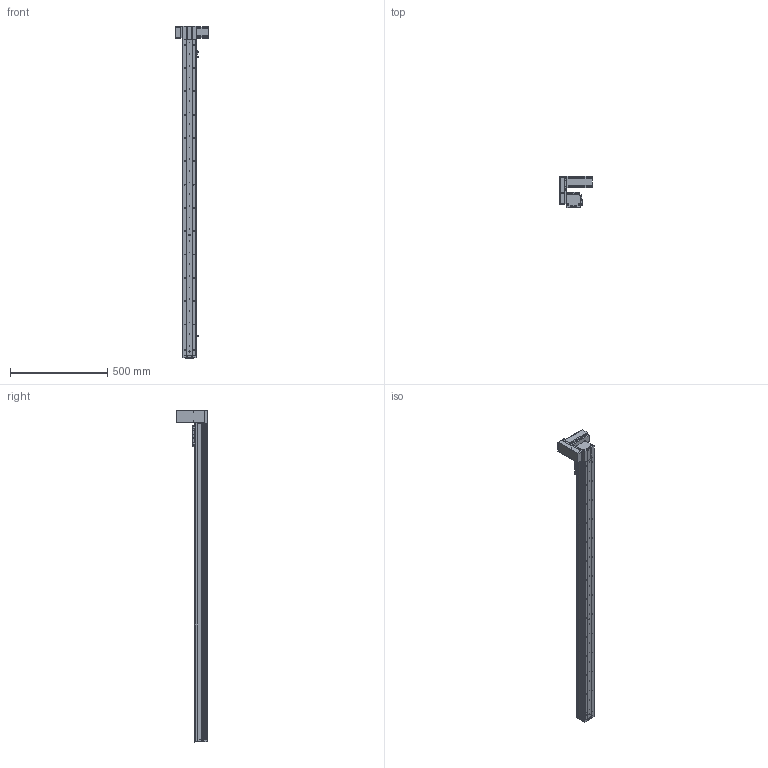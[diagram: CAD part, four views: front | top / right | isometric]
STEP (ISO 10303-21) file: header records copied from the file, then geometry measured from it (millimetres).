
FILE_DESCRIPTION (( 'STEP AP214' ), '1' );
FILE_NAME ('KSD68BS-S1450-MRU-CR.STEP', '2019-11-08T06:30:01', ( '微软用户' ), ( '微软中国' ), 'SwSTEP 2.0', 'SolidWorks 2014', '' );
FILE_SCHEMA (( 'AUTOMOTIVE_DESIGN' ));
Length unit declared in the file: millimetre
Products named in the file (14): KSD68BS 1450行程盖板全封闭; 68宽单导轨全封闭丝杆传动安装板1防护罩; KSD68BS 1450行程侧板全封闭; 68宽单导轨全封闭同步带端板; 68遵裔啣揤啣1; 68单导轨全封闭同步带电机座右; 68单导轨全封闭同步带安装板; 悵誘欶奻狟殏; 68宽马达安装板连板上折同步带; 感应片68宽全封闭; U倰嫖萇EEㄜSX672; 台达ECMA－C20604AS伺服电机（400W); KSD68BS 1450行程底板全封闭; KSD68BS-S1450-MRU-CR
Assembly tree (17 placements, depth 2):
  KSD68BS-S1450-MRU-CR
    KSD68BS 1450行程底板全封闭
    台达ECMA－C20604AS伺服电机（400W)
    U倰嫖萇EEㄜSX672  x3
    感应片68宽全封闭
    68宽马达安装板连板上折同步带
    悵誘欶奻狟殏
    68单导轨全封闭同步带安装板
    68单导轨全封闭同步带电机座右
    68宽单导轨全封闭同步带端板
    KSD68BS 1450行程侧板全封闭  x2
    68宽单导轨全封闭丝杆传动安装板1防护罩
    68遵裔啣揤啣1  x2
    KSD68BS 1450行程盖板全封闭
Bounding box: 167.2 x 159.5 x 1708.1 mm (x, y, z)
Volume: 3143334.4 mm3; surface area: 1258233.3 mm2
Topology: 18 solids, 18 shells, 1590 faces, 4567 edges, 2911 vertices
Faces by surface type: cylinder 775, plane 631, cone 184
Entity records: 51506 total; most frequent: CARTESIAN_POINT 8901, DIRECTION 7683, ORIENTED_EDGE 7346, EDGE_CURVE 3673, AXIS2_PLACEMENT_3D 2795, VERTEX_POINT 2409, VECTOR 2093, LINE 2093
